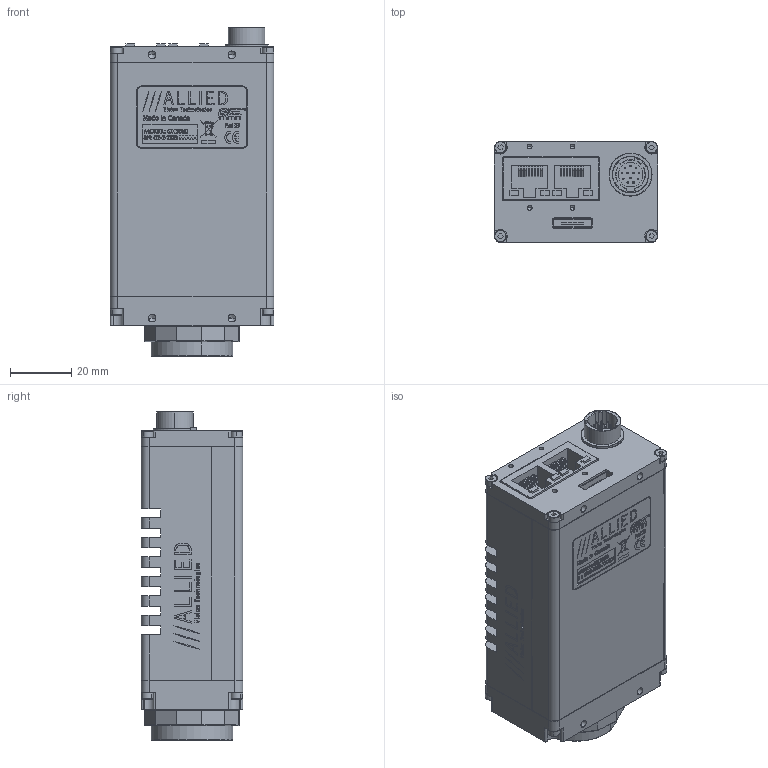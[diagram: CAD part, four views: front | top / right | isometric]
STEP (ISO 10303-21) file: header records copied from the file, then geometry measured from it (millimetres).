
FILE_DESCRIPTION (( 'STEP AP214' ), '1' );
FILE_NAME ('GX1050_new.STEP', '2013-07-30T22:27:53', ( '' ), ( '' ), 'SwSTEP 2.0', 'SolidWorks 2013', '' );
FILE_SCHEMA (( 'AUTOMOTIVE_DESIGN' ));
Length unit declared in the file: millimetre
Products named in the file (22): 100171A - GX BACK ASSY; 110097A-GX BACK PLATE; 260034-HIROSE HR10A-10R-12PB; 140061-SCREW SKT CAP M2x8 SS; 100165A - GX1050 FRONT ASSY; 740110B-GX1050 THERMAL LABEL PRINT; 220135-KODAK KAI-01050-ABA; 740102B-GX SERIES LABEL; KODAK KAI-01050 WINDOW; KODAK KAI-01050 BODY; GX1050_new; 110103A-GX CCD GASKET; 110003AC-CV CMOUNT RING; 110031A-B EC-CCD LOCKING RING; 110098A-GX FRONT PLATE; 100172B - GX BODY ASSY-THERMAL; 110100B-GX TOP COVER-THERMAL_Finished; 200115A-GX POWER PCBA; 260048-HIROSE 3260-8S3; 200114A-GX MAIN PCBA; 260043-HALO HFJ12-1G16ER-L12RL; 110099B-GX BOTTOM COVER-THERMAL_Finished
Assembly tree (28 placements, depth 4):
  GX1050_new
    740102B-GX SERIES LABEL
    740110B-GX1050 THERMAL LABEL PRINT
    140061-SCREW SKT CAP M2x8 SS  x4
    100172B - GX BODY ASSY-THERMAL
      100171A - GX BACK ASSY
        260034-HIROSE HR10A-10R-12PB
        110097A-GX BACK PLATE
      140061-SCREW SKT CAP M2x8 SS  x4
      110099B-GX BOTTOM COVER-THERMAL_Finished
      200114A-GX MAIN PCBA
        260043-HALO HFJ12-1G16ER-L12RL
      200115A-GX POWER PCBA
        260048-HIROSE 3260-8S3
      110100B-GX TOP COVER-THERMAL_Finished
    100165A - GX1050 FRONT ASSY
      110098A-GX FRONT PLATE
      110031A-B EC-CCD LOCKING RING
      110003AC-CV CMOUNT RING
      110103A-GX CCD GASKET
      220135-KODAK KAI-01050-ABA
        KODAK KAI-01050 BODY
        KODAK KAI-01050 WINDOW
Bounding box: 53.39 x 33.02 x 107.14 mm (x, y, z)
Volume: 79274 mm3; surface area: 71604.8 mm2
Topology: 66 solids, 66 shells, 4086 faces, 10576 edges, 6876 vertices
Faces by surface type: plane 2230, bspline 901, cylinder 711, cone 244
Entity records: 198238 total; most frequent: CARTESIAN_POINT 61523, ORIENTED_EDGE 20384, DIRECTION 16126, EDGE_CURVE 10192, VECTOR 6878, LINE 6878, VERTEX_POINT 6708, AXIS2_PLACEMENT_3D 4624
